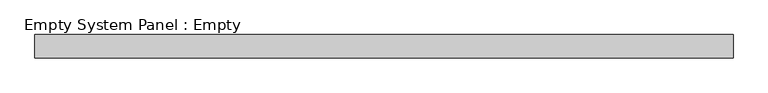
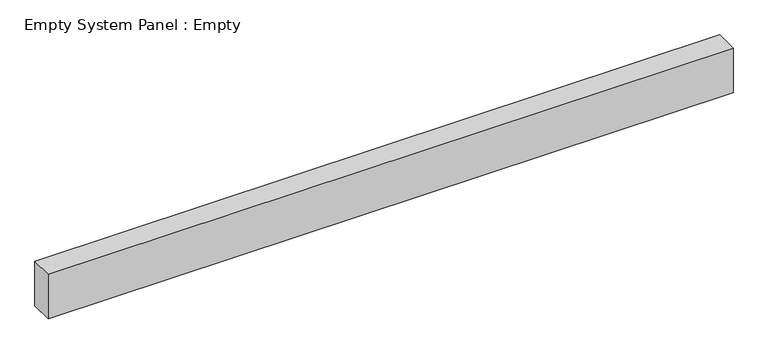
"""IFC4 building model written with IfcOpenShell, lengths in millimetres: plate geometry, Empty System Panel : Empty."""

from ifc_helpers import new_model, si_unit, origin, origin_with_axes, place, context, project, spatial, polyline, outline, extrude, source, transform, mapped, element, save


def empty_system_panel_empty_cb8dddf3(model_context):
    return source(origin(), model_context, "Body", "SweptSolid", [
        extrude(outline(polyline([(1500.0, -50.0), (-1500.0, -50.0), (-1500.0, 50.0), (1500.0, 50.0), (1500.0, -50.0)])), origin_with_axes(), (0.0, 0.0, 1.0), 206.5),
    ])


if __name__ == "__main__":
    model = new_model("IFC4")
    model_context = context("Model", 3, world=origin())
    ifc_project = project(units=[si_unit("LENGTHUNIT", "METRE", prefix="MILLI")], contexts=[model_context])
    site = spatial("IfcSite", under=ifc_project)
    building = spatial("IfcBuilding", under=site)
    placement = place(None, origin())
    empty_system_panel_empty_shape = empty_system_panel_empty_cb8dddf3(model_context)
    element("IfcPlate", 1, ObjectType="Empty System Panel : Empty", at=placement, inside=building, context=model_context, shape_type="MappedRepresentation", body=[
        mapped(empty_system_panel_empty_shape, transform((0.0, 0.0, 0.0), x_axis=(1.0, 0.0, 0.0), y_axis=(0.0, 1.0, 0.0), z_axis=(0.0, 0.0, 1.0))),
    ])
    save(model, "model.ifc")
